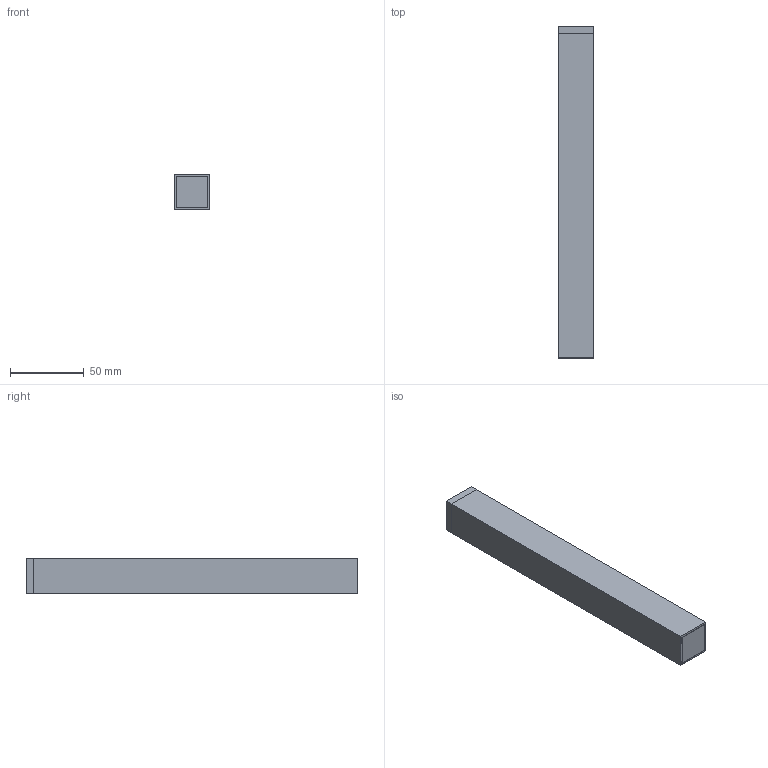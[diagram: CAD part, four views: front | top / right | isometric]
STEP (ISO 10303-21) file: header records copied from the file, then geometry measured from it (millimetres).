
FILE_DESCRIPTION(/* description */ (''),/* implementation_level */ '2;1');
FILE_NAME(/* name */ 'BM02-S2424-225L-N.step',/* time_stamp */ '2025-10-10T15:33:14+09:00',/* author */ (''),/* organization */ (''),/* preprocessor_version */ 'ST-DEVELOPER v20.1',/* originating_system */ 'Autodesk Translation Framework v14.17.0.0',/* authorisation */ '');
FILE_SCHEMA (('AUTOMOTIVE_DESIGN { 1 0 10303 214 3 1 1 }'));
Length unit declared in the file: millimetre
Products named in the file (4): BM02-S2424-225L-N; Component1; Component2; Component3
Assembly tree (3 placements, depth 2):
  BM02-S2424-225L-N
    Component1
    Component2
    Component3
Bounding box: 24 x 225 x 24 mm (x, y, z)
Volume: 115371.6 mm3; surface area: 61454.2 mm2
Topology: 4 solids, 4 shells, 39 faces, 85 edges, 55 vertices
Faces by surface type: plane 37, cone 1, cylinder 1
Full cylindrical faces by diameter (mm): 4.234 x1
Entity records: 1172 total; most frequent: CARTESIAN_POINT 185, DIRECTION 178, ORIENTED_EDGE 168, EDGE_CURVE 84, LINE 82, VECTOR 82, VERTEX_POINT 55, AXIS2_PLACEMENT_3D 48
